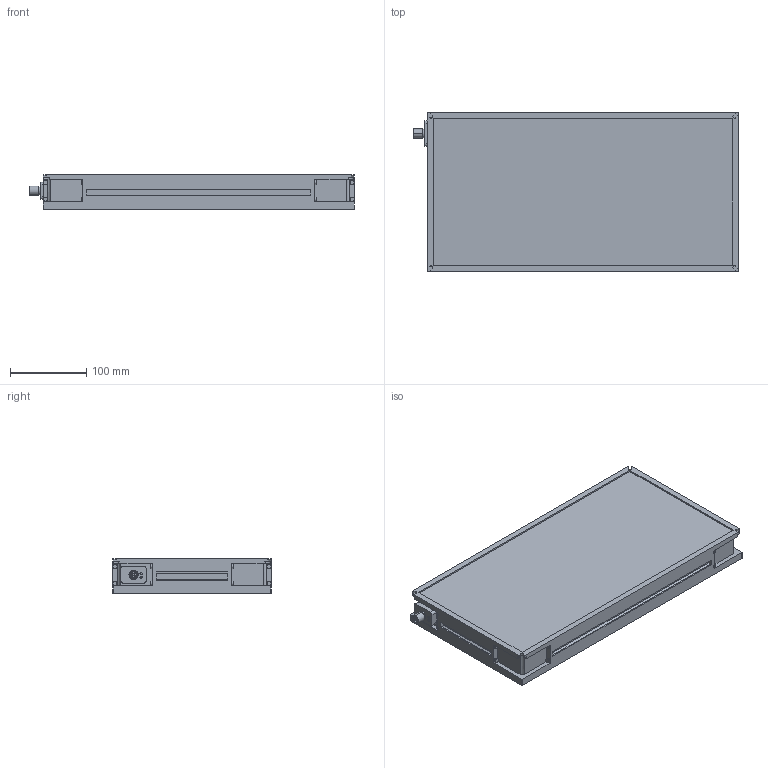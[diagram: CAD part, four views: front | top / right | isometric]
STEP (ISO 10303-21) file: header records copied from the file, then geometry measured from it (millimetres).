
FILE_DESCRIPTION (( 'STEP AP214' ), '1' );
FILE_NAME ('HPB-EC-4020-xxx-M1.STEP', '2026-06-08T15:57:35', ( '' ), ( '' ), 'SwSTEP 2.0', 'SolidWorks 2025', '' );
FILE_SCHEMA (( 'AUTOMOTIVE_DESIGN' ));
Length unit declared in the file: millimetre
Products named in the file (1): HPB-EC-4020-xxx-M1
Bounding box: 425.9 x 208 x 45.5 mm (x, y, z)
Volume: 3474419.3 mm3; surface area: 251288.1 mm2
Topology: 1 solids, 1 shells, 441 faces, 1142 edges, 758 vertices
Faces by surface type: plane 248, cylinder 103, bspline 80, cone 10
Entity records: 17426 total; most frequent: CARTESIAN_POINT 6694, ORIENTED_EDGE 2284, DIRECTION 1930, EDGE_CURVE 1142, LINE 758, VERTEX_POINT 758, VECTOR 758, AXIS2_PLACEMENT_3D 586
